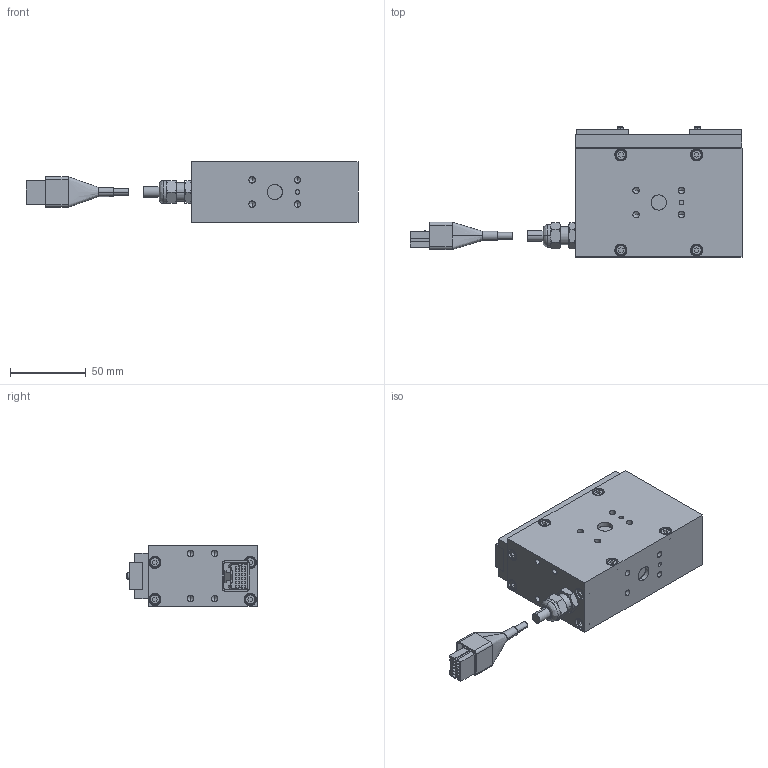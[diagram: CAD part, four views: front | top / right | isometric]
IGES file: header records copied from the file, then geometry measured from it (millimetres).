
Start section: SolidWorks IGES file using analytic representation for surfaces
Global section: file name: G:\SW2007図面\TAIYO\電動機器３Ｄ\電動グリッパ　２爪\ESG-FS-2840.IGS; native system: SolidWorks 2007; preprocessor: SolidWorks 2007; author: 風音庵,,1; organization: 1; date: 090212.180730; units: millimetre
Bounding box: 219.39 x 86 x 40 mm (x, y, z)
Surface area: 51056.6 mm2 (no closed solid volume)
Topology: 0 solids, 0 shells, 447 faces, 4979 edges, 4955 vertices
Faces by surface type: bspline 267, revolution 180
